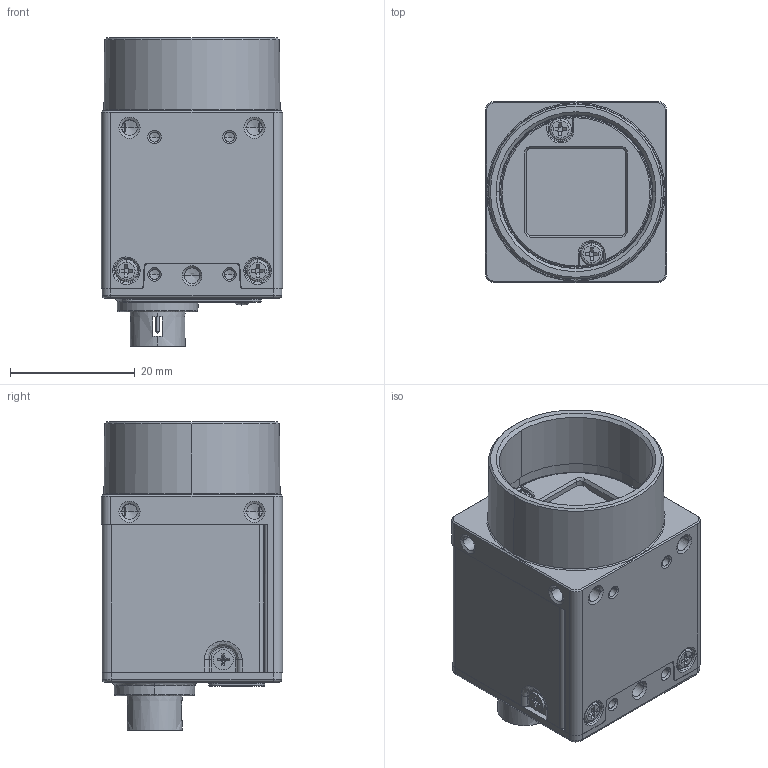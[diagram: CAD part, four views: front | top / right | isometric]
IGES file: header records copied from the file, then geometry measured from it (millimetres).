
Start section:  PTC IGES file: dh9-rdi000514-6001_19-1.igs
Global section: file name: dh9-rdi000514-6001_19-1.igs; native system: Creo Parametric by PTC Inc.; preprocessor: 2020184; author: 401332; organization: Unknown; date: 20250318.141501; units: millimetre
Bounding box: 29 x 29 x 49.4 mm (x, y, z)
Surface area: 14818.8 mm2 (no closed solid volume)
Topology: 0 solids, 0 shells, 2346 faces, 12466 edges, 12397 vertices
Faces by surface type: bspline 1168, revolution 1141, extrusion 37
